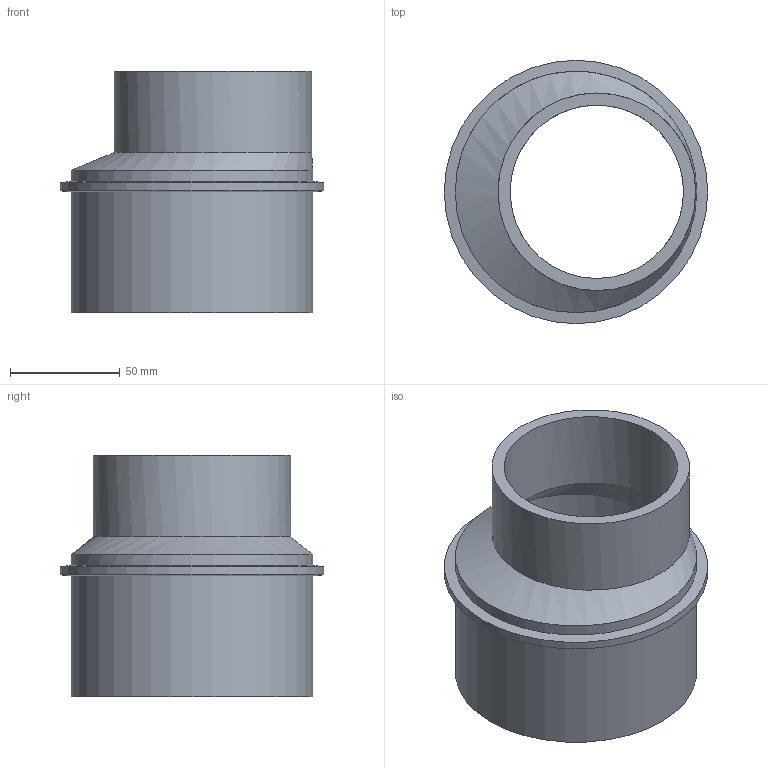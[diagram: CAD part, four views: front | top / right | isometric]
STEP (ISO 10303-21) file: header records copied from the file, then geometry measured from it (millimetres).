
FILE_DESCRIPTION(/* description */ (''),/* implementation_level */ '2;1');
FILE_NAME(/* name */ 'Z:\Geberit\Export\NewStep\Reduktion_Ipart\stp\310080.stp',/* time_stamp */ '2014-04-03T18:14:25+02:00',/* author */ ('nelson'),/* organization */ (''),/* preprocessor_version */ 'ST-DEVELOPER v15.2',/* originating_system */ 'Autodesk Inventor 2014',/* authorisation */ '');
FILE_SCHEMA (('AUTOMOTIVE_DESIGN { 1 0 10303 214 3 1 1 }'));
Length unit declared in the file: millimetre
Products named in the file (1): 310080
Bounding box: 120 x 120 x 110 mm (x, y, z)
Volume: 202697.1 mm3; surface area: 76886.4 mm2
Topology: 1 solids, 1 shells, 12 faces, 28 edges, 18 vertices
Faces by surface type: cylinder 6, cone 2, bspline 2, plane 2
Full cylindrical faces by diameter (mm): 79 x1, 90 x1, 98 x1, 110 x2, 120 x1
Entity records: 355 total; most frequent: CARTESIAN_POINT 83, DIRECTION 54, ORIENTED_EDGE 36, AXIS2_PLACEMENT_3D 27, EDGE_LOOP 22, EDGE_CURVE 18, CIRCLE 16, VERTEX_POINT 16
